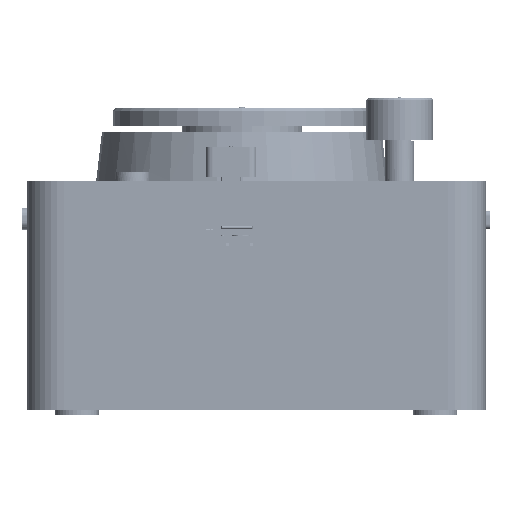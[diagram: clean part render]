
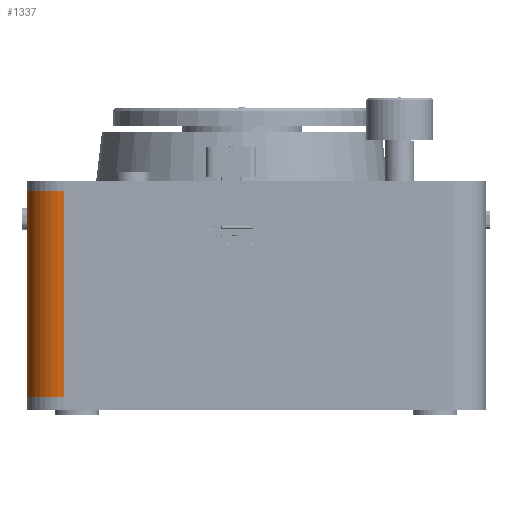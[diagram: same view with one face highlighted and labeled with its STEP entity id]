
A CAD part, front view. The second image highlights one B-rep face of the part: STEP entity #1337.
In plain terms, the highlighted cylindrical face has radius 7.8 mm (diameter 15.6 mm), a partial arc.
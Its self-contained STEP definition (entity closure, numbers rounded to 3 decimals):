
#96 = VERTEX_POINT('',#97);
#97 = CARTESIAN_POINT('',(32.,-213.2,10.85));
#106 = PLANE('',#107);
#107 = AXIS2_PLACEMENT_3D('',#108,#109,#110);
#108 = CARTESIAN_POINT('',(32.,-221.,-32.3));
#109 = DIRECTION('',(1.,0.,0.));
#110 = DIRECTION('',(0.,0.,1.));
#118 = PLANE('',#119);
#119 = AXIS2_PLACEMENT_3D('',#120,#121,#122);
#120 = CARTESIAN_POINT('',(32.,-221.,10.85));
#121 = DIRECTION('',(0.,0.,1.));
#122 = DIRECTION('',(1.,0.,0.));
#130 = EDGE_CURVE('',#131,#96,#133,.T.);
#131 = VERTEX_POINT('',#132);
#132 = CARTESIAN_POINT('',(32.,-213.2,-32.3));
#133 = SURFACE_CURVE('',#134,(#138,#145),.PCURVE_S1.);
#134 = LINE('',#135,#136);
#135 = CARTESIAN_POINT('',(32.,-213.2,-32.3));
#136 = VECTOR('',#137,1.);
#137 = DIRECTION('',(0.,0.,1.));
#138 = PCURVE('',#106,#139);
#139 = DEFINITIONAL_REPRESENTATION('',(#140),#144);
#140 = LINE('',#141,#142);
#141 = CARTESIAN_POINT('',(0.,-7.8));
#142 = VECTOR('',#143,1.);
#143 = DIRECTION('',(1.,0.));
#144 = ( GEOMETRIC_REPRESENTATION_CONTEXT(2) 
PARAMETRIC_REPRESENTATION_CONTEXT() REPRESENTATION_CONTEXT('2D SPACE',''
  ) );
#145 = PCURVE('',#146,#151);
#146 = CYLINDRICAL_SURFACE('',#147,7.8);
#147 = AXIS2_PLACEMENT_3D('',#148,#149,#150);
#148 = CARTESIAN_POINT('',(39.8,-213.2,-32.3));
#149 = DIRECTION('',(0.,0.,1.));
#150 = DIRECTION('',(-1.,-0.,0.));
#151 = DEFINITIONAL_REPRESENTATION('',(#152),#156);
#152 = LINE('',#153,#154);
#153 = CARTESIAN_POINT('',(0.,0.));
#154 = VECTOR('',#155,1.);
#155 = DIRECTION('',(0.,1.));
#156 = ( GEOMETRIC_REPRESENTATION_CONTEXT(2) 
PARAMETRIC_REPRESENTATION_CONTEXT() REPRESENTATION_CONTEXT('2D SPACE',''
  ) );
#174 = PLANE('',#175);
#175 = AXIS2_PLACEMENT_3D('',#176,#177,#178);
#176 = CARTESIAN_POINT('',(32.,-221.,-32.3));
#177 = DIRECTION('',(0.,0.,1.));
#178 = DIRECTION('',(1.,0.,0.));
#660 = EDGE_CURVE('',#96,#661,#663,.T.);
#661 = VERTEX_POINT('',#662);
#662 = CARTESIAN_POINT('',(39.8,-221.,10.85));
#663 = SURFACE_CURVE('',#664,(#669,#676),.PCURVE_S1.);
#664 = CIRCLE('',#665,7.8);
#665 = AXIS2_PLACEMENT_3D('',#666,#667,#668);
#666 = CARTESIAN_POINT('',(39.8,-213.2,10.85));
#667 = DIRECTION('',(0.,0.,1.));
#668 = DIRECTION('',(0.,-1.,0.));
#669 = PCURVE('',#118,#670);
#670 = DEFINITIONAL_REPRESENTATION('',(#671),#675);
#671 = CIRCLE('',#672,7.8);
#672 = AXIS2_PLACEMENT_2D('',#673,#674);
#673 = CARTESIAN_POINT('',(7.8,7.8));
#674 = DIRECTION('',(0.,-1.));
#675 = ( GEOMETRIC_REPRESENTATION_CONTEXT(2) 
PARAMETRIC_REPRESENTATION_CONTEXT() REPRESENTATION_CONTEXT('2D SPACE',''
  ) );
#676 = PCURVE('',#146,#677);
#677 = DEFINITIONAL_REPRESENTATION('',(#678),#682);
#678 = LINE('',#679,#680);
#679 = CARTESIAN_POINT('',(-4.712,43.15));
#680 = VECTOR('',#681,1.);
#681 = DIRECTION('',(1.,0.));
#682 = ( GEOMETRIC_REPRESENTATION_CONTEXT(2) 
PARAMETRIC_REPRESENTATION_CONTEXT() REPRESENTATION_CONTEXT('2D SPACE',''
  ) );
#700 = PLANE('',#701);
#701 = AXIS2_PLACEMENT_3D('',#702,#703,#704);
#702 = CARTESIAN_POINT('',(32.,-221.,-32.3));
#703 = DIRECTION('',(0.,1.,0.));
#704 = DIRECTION('',(0.,0.,1.));
#1337 = ADVANCED_FACE('',(#1338),#146,.T.);
#1338 = FACE_BOUND('',#1339,.T.);
#1339 = EDGE_LOOP('',(#1340,#1364,#1385,#1386));
#1340 = ORIENTED_EDGE('',*,*,#1341,.T.);
#1341 = EDGE_CURVE('',#131,#1342,#1344,.T.);
#1342 = VERTEX_POINT('',#1343);
#1343 = CARTESIAN_POINT('',(39.8,-221.,-32.3));
#1344 = SURFACE_CURVE('',#1345,(#1350,#1357),.PCURVE_S1.);
#1345 = CIRCLE('',#1346,7.8);
#1346 = AXIS2_PLACEMENT_3D('',#1347,#1348,#1349);
#1347 = CARTESIAN_POINT('',(39.8,-213.2,-32.3));
#1348 = DIRECTION('',(0.,0.,1.));
#1349 = DIRECTION('',(0.,-1.,0.));
#1350 = PCURVE('',#146,#1351);
#1351 = DEFINITIONAL_REPRESENTATION('',(#1352),#1356);
#1352 = LINE('',#1353,#1354);
#1353 = CARTESIAN_POINT('',(-4.712,0.));
#1354 = VECTOR('',#1355,1.);
#1355 = DIRECTION('',(1.,0.));
#1356 = ( GEOMETRIC_REPRESENTATION_CONTEXT(2) 
PARAMETRIC_REPRESENTATION_CONTEXT() REPRESENTATION_CONTEXT('2D SPACE',''
  ) );
#1357 = PCURVE('',#174,#1358);
#1358 = DEFINITIONAL_REPRESENTATION('',(#1359),#1363);
#1359 = CIRCLE('',#1360,7.8);
#1360 = AXIS2_PLACEMENT_2D('',#1361,#1362);
#1361 = CARTESIAN_POINT('',(7.8,7.8));
#1362 = DIRECTION('',(0.,-1.));
#1363 = ( GEOMETRIC_REPRESENTATION_CONTEXT(2) 
PARAMETRIC_REPRESENTATION_CONTEXT() REPRESENTATION_CONTEXT('2D SPACE',''
  ) );
#1364 = ORIENTED_EDGE('',*,*,#1365,.T.);
#1365 = EDGE_CURVE('',#1342,#661,#1366,.T.);
#1366 = SURFACE_CURVE('',#1367,(#1371,#1378),.PCURVE_S1.);
#1367 = LINE('',#1368,#1369);
#1368 = CARTESIAN_POINT('',(39.8,-221.,-32.3));
#1369 = VECTOR('',#1370,1.);
#1370 = DIRECTION('',(0.,0.,1.));
#1371 = PCURVE('',#146,#1372);
#1372 = DEFINITIONAL_REPRESENTATION('',(#1373),#1377);
#1373 = LINE('',#1374,#1375);
#1374 = CARTESIAN_POINT('',(1.571,0.));
#1375 = VECTOR('',#1376,1.);
#1376 = DIRECTION('',(0.,1.));
#1377 = ( GEOMETRIC_REPRESENTATION_CONTEXT(2) 
PARAMETRIC_REPRESENTATION_CONTEXT() REPRESENTATION_CONTEXT('2D SPACE',''
  ) );
#1378 = PCURVE('',#700,#1379);
#1379 = DEFINITIONAL_REPRESENTATION('',(#1380),#1384);
#1380 = LINE('',#1381,#1382);
#1381 = CARTESIAN_POINT('',(0.,7.8));
#1382 = VECTOR('',#1383,1.);
#1383 = DIRECTION('',(1.,0.));
#1384 = ( GEOMETRIC_REPRESENTATION_CONTEXT(2) 
PARAMETRIC_REPRESENTATION_CONTEXT() REPRESENTATION_CONTEXT('2D SPACE',''
  ) );
#1385 = ORIENTED_EDGE('',*,*,#660,.F.);
#1386 = ORIENTED_EDGE('',*,*,#130,.F.);
